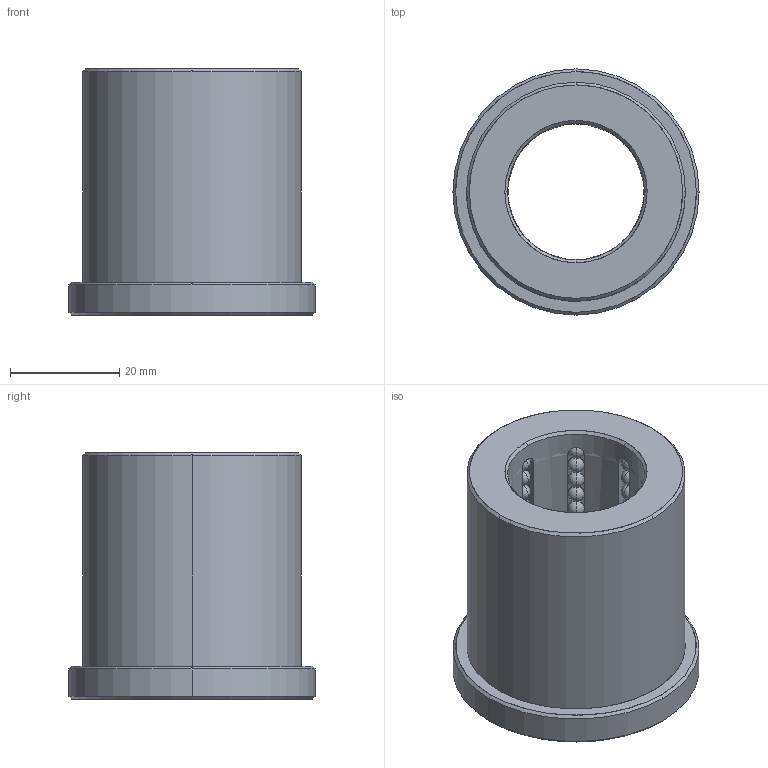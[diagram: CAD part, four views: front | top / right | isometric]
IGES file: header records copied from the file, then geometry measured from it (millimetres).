
Start section: START RECORD GO HERE.
Global section: file name: B8012545.igs; native system: DASSAULT SYSTEMES CATIA V5 R20 - www.3ds.com; preprocessor: CATIA Version 5 Release 20 ; author: Utente; organization: NB04-ASUS; date: 20200419.143028; units: millimetre
Bounding box: 45 x 45 x 45 mm (x, y, z)
Surface area: 15928.9 mm2 (no closed solid volume)
Topology: 0 solids, 0 shells, 453 faces, 1876 edges, 1108 vertices
Faces by surface type: revolution 426, plane 27
